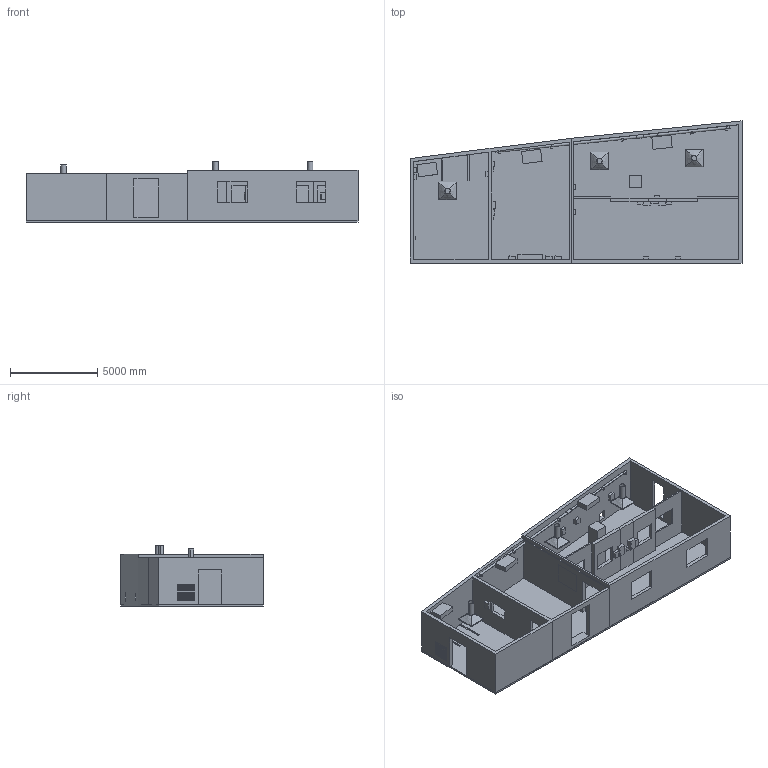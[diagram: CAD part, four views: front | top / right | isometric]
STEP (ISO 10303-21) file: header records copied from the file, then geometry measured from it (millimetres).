
FILE_DESCRIPTION(('CATIA V5 STEP Exchange'),'2;1');
FILE_NAME('E:\OneDrive\1_WORK\PROJET\RENOVATION_SALLES_020_010\0_CAO_Salles_Expes\Salle010_CASTEX\26_02_Espace_G_Darrieus_Projet\26_02_Espace_G_Darrieus_Projet.stp','2026-02-11T14:15:01+00:00',('none'),('none'),'CATIA Version 5 Release 21 GA (IN-10)','CATIA V5 STEP AP203','none');
FILE_SCHEMA(('CONFIG_CONTROL_DESIGN'));
Length unit declared in the file: millimetre
Products named in the file (2): Espace_G_Darrieus_Projet; Equipement Electrique Projet
Assembly tree (35 placements, depth 3):
  Espace_G_Darrieus_Projet
    #58
    #5532  x3
    #7972  x3
    #8177
    Equipement Electrique Projet
      #9397  x13
      #9572  x5
      #9882  x2
      #10177  x6
Bounding box: 19050 x 8155.66 x 3500 mm (x, y, z)
Volume: 52125788812.5 mm3; surface area: 744983122.7 mm2
Topology: 42 solids, 42 shells, 524 faces, 1239 edges, 805 vertices
Faces by surface type: plane 470, cylinder 30, bspline 24
Entity records: 10628 total; most frequent: CARTESIAN_POINT 3721, ORIENTED_EDGE 1430, DIRECTION 1181, EDGE_CURVE 715, VECTOR 639, LINE 639, VERTEX_POINT 469, EDGE_LOOP 330
